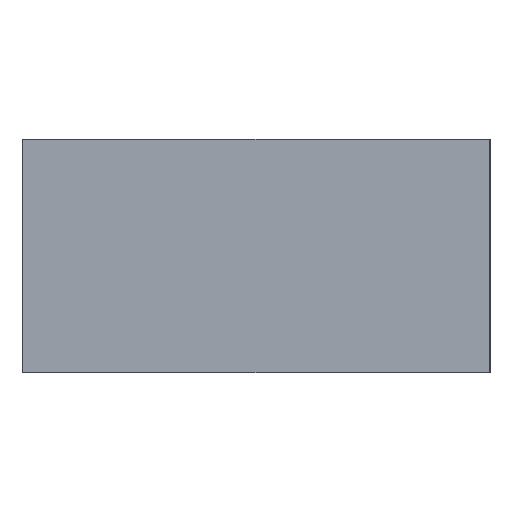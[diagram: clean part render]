
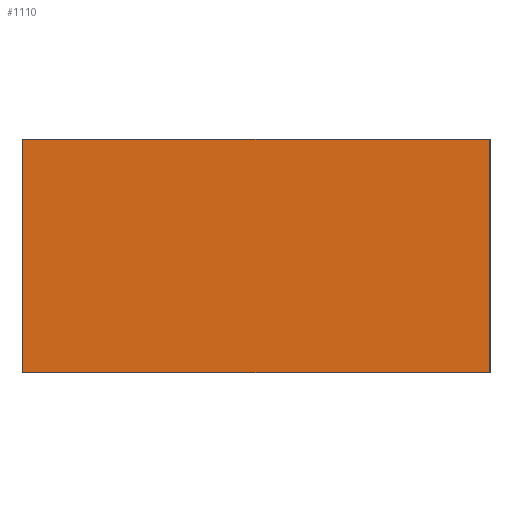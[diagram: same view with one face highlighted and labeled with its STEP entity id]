
A CAD part, front view. The second image highlights one B-rep face of the part: STEP entity #1110.
In plain terms, the highlighted planar face has unit normal (0, -1, 0).
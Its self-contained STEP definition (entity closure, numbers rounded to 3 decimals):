
#185 = EDGE_CURVE ( 'NONE', #3820, #3944, #3676, .T. ) ;
#232 = CARTESIAN_POINT ( 'NONE',  ( 86.3, 152.888, 100. ) ) ;
#276 = ORIENTED_EDGE ( 'NONE', *, *, #2275, .T. ) ;
#434 = ORIENTED_EDGE ( 'NONE', *, *, #2042, .F. ) ;
#673 = LINE ( 'NONE', #3083, #3802 ) ;
#717 = VECTOR ( 'NONE', #2706, 1000. ) ;
#841 = CARTESIAN_POINT ( 'NONE',  ( 285.7, 152.888, 100. ) ) ;
#908 = DIRECTION ( 'NONE',  ( 1., 0., 0. ) ) ;
#957 = LINE ( 'NONE', #3799, #3341 ) ;
#1050 = ORIENTED_EDGE ( 'NONE', *, *, #2111, .T. ) ;
#1110 = ADVANCED_FACE ( 'NONE', ( #3286 ), #2926, .F. ) ;
#1161 = DIRECTION ( 'NONE',  ( 0., 0., -1. ) ) ;
#1175 = VECTOR ( 'NONE', #1161, 1000. ) ;
#1189 = VERTEX_POINT ( 'NONE', #2080 ) ;
#1323 = DIRECTION ( 'NONE',  ( 1., 0., 0. ) ) ;
#1374 = CARTESIAN_POINT ( 'NONE',  ( 186., 152.888, 100. ) ) ;
#1644 = LINE ( 'NONE', #232, #717 ) ;
#1676 = DIRECTION ( 'NONE',  ( 0., 0., 1. ) ) ;
#2003 = CARTESIAN_POINT ( 'NONE',  ( 285.7, 152.888, 100. ) ) ;
#2042 = EDGE_CURVE ( 'NONE', #3256, #3820, #957, .T. ) ;
#2080 = CARTESIAN_POINT ( 'NONE',  ( 86.3, 152.888, 0. ) ) ;
#2111 = EDGE_CURVE ( 'NONE', #1189, #3944, #673, .T. ) ;
#2275 = EDGE_CURVE ( 'NONE', #3256, #1189, #1644, .T. ) ;
#2569 = ORIENTED_EDGE ( 'NONE', *, *, #185, .F. ) ;
#2706 = DIRECTION ( 'NONE',  ( 0., 0., -1. ) ) ;
#2715 = CARTESIAN_POINT ( 'NONE',  ( 86.3, 152.888, 100. ) ) ;
#2727 = EDGE_LOOP ( 'NONE', ( #1050, #2569, #434, #276 ) ) ;
#2857 = AXIS2_PLACEMENT_3D ( 'NONE', #1374, #3549, #1676 ) ;
#2926 = PLANE ( 'NONE',  #2857 ) ;
#3083 = CARTESIAN_POINT ( 'NONE',  ( 186., 152.888, 0. ) ) ;
#3256 = VERTEX_POINT ( 'NONE', #2715 ) ;
#3286 = FACE_OUTER_BOUND ( 'NONE', #2727, .T. ) ;
#3322 = CARTESIAN_POINT ( 'NONE',  ( 285.7, 152.888, 0. ) ) ;
#3341 = VECTOR ( 'NONE', #1323, 1000. ) ;
#3549 = DIRECTION ( 'NONE',  ( 0., 1., 0. ) ) ;
#3676 = LINE ( 'NONE', #841, #1175 ) ;
#3799 = CARTESIAN_POINT ( 'NONE',  ( 186., 152.888, 100. ) ) ;
#3802 = VECTOR ( 'NONE', #908, 1000. ) ;
#3820 = VERTEX_POINT ( 'NONE', #2003 ) ;
#3944 = VERTEX_POINT ( 'NONE', #3322 ) ;
